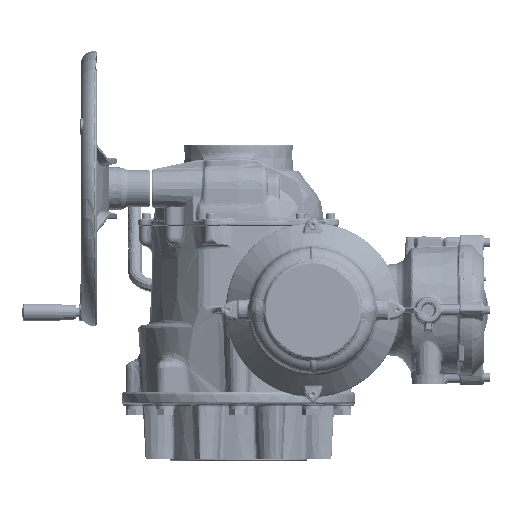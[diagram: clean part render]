
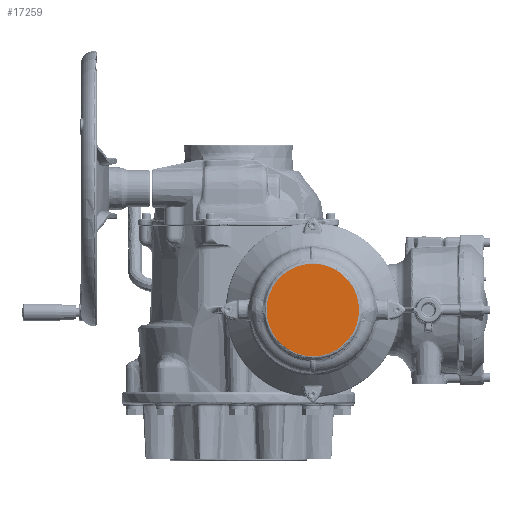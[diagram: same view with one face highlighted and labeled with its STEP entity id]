
A CAD part, left-side view. The second image highlights one B-rep face of the part: STEP entity #17259.
In plain terms, the highlighted planar face has unit normal (-1, 0, 0).
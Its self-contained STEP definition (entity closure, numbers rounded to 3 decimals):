
#17259 = ADVANCED_FACE( '', ( #37286 ), #37287, .T. );
#37286 = FACE_OUTER_BOUND( '', #301011, .T. );
#37287 = PLANE( '', #301012 );
#301011 = EDGE_LOOP( '', ( #439776 ) );
#301012 = AXIS2_PLACEMENT_3D( '', #439777, #439778, #439779 );
#439776 = ORIENTED_EDGE( '', *, *, #466792, .T. );
#439777 = CARTESIAN_POINT( '', ( -487.8, -108., 0. ) );
#439778 = DIRECTION( '', ( -1., 0., 0. ) );
#439779 = DIRECTION( '', ( 0., 0., -1. ) );
#466792 = EDGE_CURVE( '', #496937, #496937, #496938, .T. );
#496937 = VERTEX_POINT( '', #603712 );
#496938 = CIRCLE( '', #603713, 67.19 );
#603712 = CARTESIAN_POINT( '', ( -487.8, -108., -67.19 ) );
#603713 = AXIS2_PLACEMENT_3D( '', #709000, #709001, #709002 );
#709000 = CARTESIAN_POINT( '', ( -487.8, -108., 0. ) );
#709001 = DIRECTION( '', ( -1., 0., 0. ) );
#709002 = DIRECTION( '', ( 0., 0., -1. ) );
